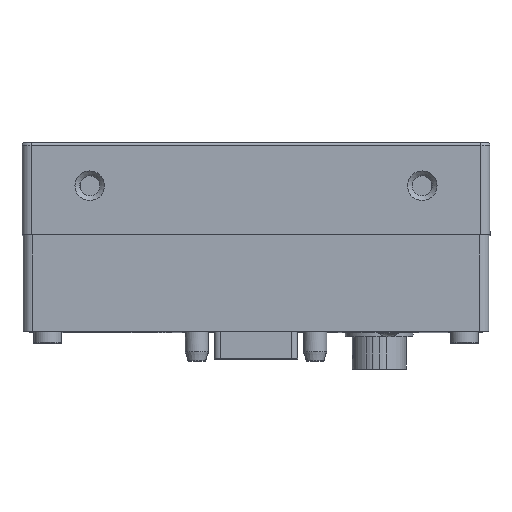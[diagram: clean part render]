
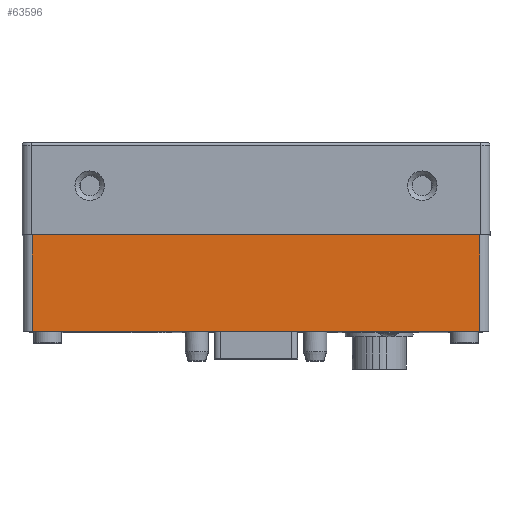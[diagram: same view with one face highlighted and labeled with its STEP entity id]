
A CAD part, top view. The second image highlights one B-rep face of the part: STEP entity #63596.
In plain terms, the highlighted planar face has unit normal (0, 0, 1).
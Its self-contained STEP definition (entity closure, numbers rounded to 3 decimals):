
#6094=FACE_OUTER_BOUND($,#9736,.T.);
#9736=EDGE_LOOP($,(#53458,#53459,#53460,#53461));
#16408=LINE($,#109060,#22855);
#16415=LINE($,#109077,#22862);
#16427=LINE($,#109139,#22874);
#16432=LINE($,#109159,#22879);
#22855=VECTOR($,#77753,72.6);
#22862=VECTOR($,#77770,15.62);
#22874=VECTOR($,#77846,72.6);
#22879=VECTOR($,#77867,15.62);
#28755=VERTEX_POINT($,#109045);
#28762=VERTEX_POINT($,#109058);
#28767=VERTEX_POINT($,#109076);
#28785=VERTEX_POINT($,#109138);
#37073=EDGE_CURVE($,#28762,#28755,#16408,.T.);
#37081=EDGE_CURVE($,#28755,#28767,#16415,.T.);
#37112=EDGE_CURVE($,#28785,#28767,#16427,.T.);
#37123=EDGE_CURVE($,#28785,#28762,#16432,.T.);
#53458=ORIENTED_EDGE($,*,*,#37123,.F.);
#53459=ORIENTED_EDGE($,*,*,#37112,.T.);
#53460=ORIENTED_EDGE($,*,*,#37081,.F.);
#53461=ORIENTED_EDGE($,*,*,#37073,.F.);
#57115=PLANE($,#66535);
#63596=ADVANCED_FACE($,(#6094),#57115,.T.);
#66535=AXIS2_PLACEMENT_3D($,#109158,#77865,#77866);
#77753=DIRECTION($,(-1.,0.,0.));
#77770=DIRECTION($,(0.,1.,0.));
#77846=DIRECTION($,(-1.,0.,0.));
#77865=DIRECTION('center_axis',(0.,0.,
1.));
#77866=DIRECTION('ref_axis',(1.,0.,0.));
#77867=DIRECTION($,(0.,-1.,0.));
#109045=CARTESIAN_POINT('',(-36.3,-17.728,37.8));
#109058=CARTESIAN_POINT('',(36.3,-17.728,37.8));
#109060=CARTESIAN_POINT($,(36.3,-17.728,37.8));
#109076=CARTESIAN_POINT('',(-36.3,-2.108,37.8));
#109077=CARTESIAN_POINT($,(-36.3,-27.108,37.8));
#109138=CARTESIAN_POINT('',(36.3,-2.108,37.8));
#109139=CARTESIAN_POINT($,(-18.9,-2.108,37.8));
#109158=CARTESIAN_POINT('Origin',(-37.8,-27.108,37.8));
#109159=CARTESIAN_POINT($,(36.3,-27.108,37.8));
